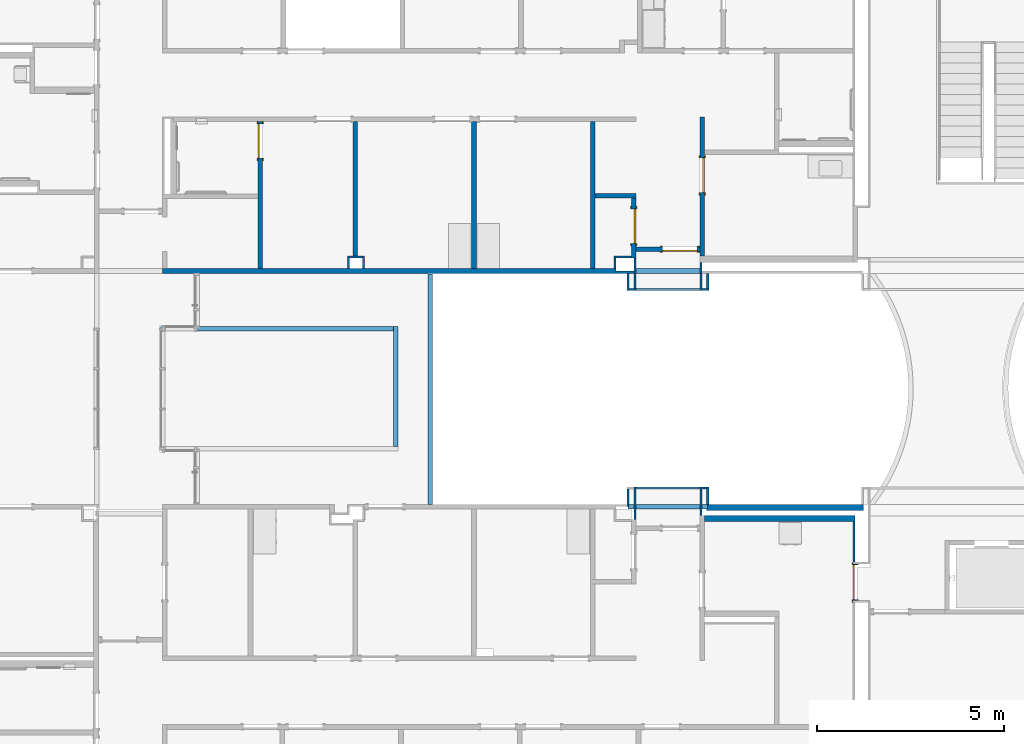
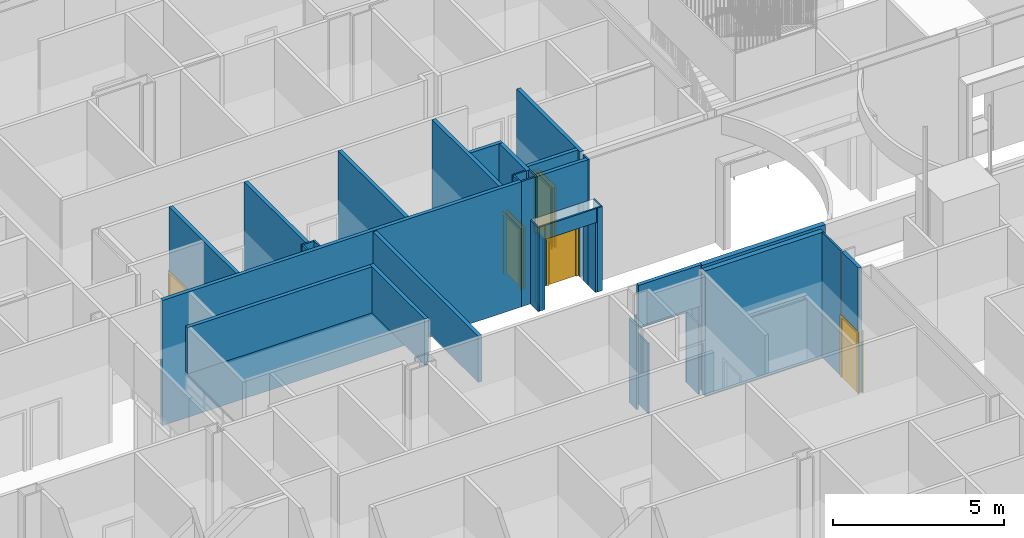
# One storey, part 29 of 82: 39 walls, 5 doors, 5 openings.
"""IFC2X3 building model written with IfcOpenShell, lengths in metres."""

from ifc_helpers import new_model, entity, si_unit, converted_unit, frame, frame_2d, origin, origin_2d_with_axis, place, context, project, spatial, polyline, rectangle, outline, extrude, source, transform, mapped, material, layer, layer_set, layer_usage, type_object, type_shapes, element, fill, save


model = new_model("IFC2X3")

# Units and contexts
model_context = context("Model", 3, precision=1e-09, world=origin())
plan_context = context("Plan", 3, precision=1e-09, world=origin())
ifc_project = project(units=[si_unit("LENGTHUNIT", "METRE"), si_unit("AREAUNIT", "SQUARE_METRE"), si_unit("VOLUMEUNIT", "CUBIC_METRE"), converted_unit("PLANEANGLEUNIT", "DEGREE", entity("IfcRatioMeasure", 0.01745329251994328), si_unit("PLANEANGLEUNIT", "RADIAN"), dimensions=[0, 0, 0, 0, 0, 0, 0]), si_unit("TIMEUNIT", "SECOND")], contexts=[model_context, plan_context])

# Site, building, storey
site_placement = place(None, origin())
site = spatial("IfcSite", under=ifc_project, at=site_placement, Name="Default", CompositionType="ELEMENT")
building_placement = place(site_placement, origin())
building = spatial("IfcBuilding", under=site, at=building_placement, CompositionType="ELEMENT")
storey_placement = place(building_placement, origin())
storey = spatial("IfcBuildingStorey", under=building, at=storey_placement, Name="First Floor", CompositionType="ELEMENT", Elevation=-3.531500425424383e-13)

# Wall
ifc_material_1 = material(Name="Plasterboard")
ifc_layer_1 = layer(ifc_material_1, 0.016)
ifc_material_2 = material(Name="Metal - Stud Layer")
ifc_layer_2 = layer(ifc_material_2, 0.092)
ifc_layer_3 = layer(ifc_material_1, 0.016)
ifc_layer_set_1 = layer_set([ifc_layer_1, ifc_layer_2, ifc_layer_3], Name="Basic Wall:Interior - Partition (92mm Stud)")
ifc_layer_usage_1 = layer_usage(ifc_layer_set_1, "AXIS2", "NEGATIVE", 0.062)
wall_1_placement = place(storey_placement, frame((-26.61400000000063, 34.8415481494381, 0.0), z_axis=(0.0, 0.0, 1.0), x_axis=(-1.0, 0.0, 0.0)))
element("IfcWallStandardCase", 1, at=wall_1_placement, inside=storey, material=ifc_layer_usage_1, Name="Basic Wall:Interior - Partition (92mm Stud)", ObjectType="Basic Wall:Interior - Partition (92mm Stud)", context=model_context, shape_type="SweptSolid", body=[
    extrude(rectangle(XDim=12.106, YDim=0.1239999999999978, at=frame_2d((6.052999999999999, 0.0), x_axis=(-1.0, 0.0))), origin(), (0.0, 0.0, 1.0), 4.468000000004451),
])

# Wall, opening, door
wall_2_placement = place(storey_placement, frame((-26.14200000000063, 36.7859999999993, 0.0), z_axis=(0.0, 0.0, 1.0), x_axis=(0.0, -1.0, 0.0)))
wall_2 = element("IfcWallStandardCase", 2, at=wall_2_placement, inside=storey, material=ifc_layer_usage_1, Name="Basic Wall:Interior - Partition (92mm Stud)", ObjectType="Basic Wall:Interior - Partition (92mm Stud)", context=model_context, shape_type="SweptSolid", body=[
    extrude(rectangle(XDim=1.600000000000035, YDim=0.1239999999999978, at=frame_2d((0.8000000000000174, 0.0), x_axis=(-1.0, 0.0))), origin(), (0.0, 0.0, 1.0), 4.468000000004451),
])
opening_1_placement = place(wall_2_placement, frame((0.2909999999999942, -0.06200000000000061, 0.0)))
opening_1 = element("IfcOpeningElement", 3, at=opening_1_placement, cuts=wall_2, Name="M_Single-Flush:0915 x 2134mm:0915 x 2134mm:1", ObjectType="Opening", context=model_context, shape_type="SweptSolid", body=[
    extrude(rectangle(XDim=0.9149999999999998, YDim=2.134, at=frame_2d((1.067, 0.4575000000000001), x_axis=(0.0, -1.0))), frame((0.0, 0.0, 0.0), z_axis=(0.0, 1.0, 0.0), x_axis=(0.0, 0.0, 1.0)), (0.0, 0.0, 1.0), 0.124),
])
door_style_1 = type_object("IfcDoorStyle", Name="0915 x 2134mm", ConstructionType="NOTDEFINED", OperationType="SINGLE_SWING_LEFT", ParameterTakesPrecedence=False, Sizeable=False)
shared_shape_1 = source(origin(), model_context, "Body", "SweptSolid", [
    extrude(outline(polyline([(-0.5335, -1.123999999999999), (0.5334999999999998, -1.123999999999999), (0.5334999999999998, 1.086), (0.4574999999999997, 1.086), (0.4574999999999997, -1.048000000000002), (-0.4574999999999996, -1.048000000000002), (-0.4574999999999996, 1.086), (-0.5335, 1.086), (-0.5335, -1.123999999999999)])), frame((0.4575000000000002, 0.1489999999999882, 1.086), z_axis=(0.0, -1.0, 0.0), x_axis=(-1.0, 0.0, 0.0)), (0.0, 0.0, 1.0), 0.02499999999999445),
    extrude(outline(polyline([(-1.123999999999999, -0.5334999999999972), (1.085999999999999, -0.5334999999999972), (1.085999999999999, -0.4575000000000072), (-1.048, -0.4575000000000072), (-1.048, 0.4575000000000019), (1.085999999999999, 0.4575000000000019), (1.085999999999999, 0.5335000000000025), (-1.123999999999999, 0.5335000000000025), (-1.123999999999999, -0.5334999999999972)])), frame((0.4574999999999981, 0.0, 1.085999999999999), z_axis=(0.0, -1.0, 0.0), x_axis=(0.0, 0.0, -1.0)), (0.0, 0.0, 1.0), 0.02500000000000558),
    extrude(rectangle(XDim=0.9149999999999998, YDim=0.051, at=origin_2d_with_axis()), frame((0.4575000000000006, 0.09849999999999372, 0.0)), (0.0, 0.0, 1.0), 2.133999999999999),
])
type_shapes(door_style_1, [shared_shape_1])
door_1_placement = place(opening_1_placement, origin())
door_1 = element("IfcDoor", 4, at=door_1_placement, inside=storey, type_object=door_style_1, Name="M_Single-Flush:0915 x 2134mm:0915 x 2134mm", ObjectType="0915 x 2134mm", OverallHeight=2.134, OverallWidth=0.9149999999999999, context=model_context, shape_type="MappedRepresentation", body=[
    mapped(shared_shape_1, transform((0.0, 0.0, 0.0), scale=1.0)),
])
fill(opening_1, door_1)

wall_3_placement = place(storey_placement, frame((-24.30800000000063, 35.23999999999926, 0.0), z_axis=(0.0, 0.0, 1.0), x_axis=(0.0, 1.0, 0.0)))
wall_3 = element("IfcWallStandardCase", 5, at=wall_3_placement, inside=storey, material=ifc_layer_usage_1, Name="Basic Wall:Interior - Partition (92mm Stud)", ObjectType="Basic Wall:Interior - Partition (92mm Stud)", context=model_context, shape_type="SweptSolid", body=[
    extrude(rectangle(XDim=3.710000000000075, YDim=0.1239999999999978, at=frame_2d((1.855000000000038, 0.0), x_axis=(-1.0, 0.0))), origin(), (0.0, 0.0, 1.0), 4.468000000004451),
])
opening_2_placement = place(wall_3_placement, frame((2.610000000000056, 0.06199999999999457, 0.0)))
opening_2 = element("IfcOpeningElement", 6, at=opening_2_placement, cuts=wall_3, Name="M_Single-Flush:0915 x 2134mm:0915 x 2134mm:1", ObjectType="Opening", context=model_context, shape_type="SweptSolid", body=[
    extrude(rectangle(XDim=0.9149999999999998, YDim=2.134, at=frame_2d((1.067, 0.4574999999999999), x_axis=(0.0, -1.0))), frame((0.0, 0.0, 0.0), z_axis=(0.0, -1.0, 0.0), x_axis=(0.0, 0.0, 1.0)), (0.0, 0.0, 1.0), 0.124),
])
door_2_placement = place(opening_2_placement, frame((0.0, 0.0, 0.0), z_axis=(0.0, 0.0, 1.0), x_axis=(-1.0, 0.0, 0.0)))
door_2 = element("IfcDoor", 7, at=door_2_placement, inside=storey, type_object=door_style_1, Name="M_Single-Flush:0915 x 2134mm:0915 x 2134mm", ObjectType="0915 x 2134mm", OverallHeight=2.134, OverallWidth=0.9149999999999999, context=model_context, shape_type="MappedRepresentation", body=[
    mapped(shared_shape_1, transform((0.0, 0.0, 0.0), scale=1.0)),
])
fill(opening_2, door_2)

# Walls
ifc_layer_4 = layer(ifc_material_2, 0.038)
ifc_layer_5 = layer(ifc_material_1, 0.016)
ifc_layer_set_2 = layer_set([ifc_layer_4, ifc_layer_5], Name="Basic Wall:Interior - Furring (38 mm Stud)")
ifc_layer_usage_2 = layer_usage(ifc_layer_set_2, "AXIS2", "NEGATIVE", 0.027)
wall_4_placement = place(storey_placement, frame((-26.10700000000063, 34.77954814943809, 0.0), z_axis=(0.0, 0.0, 1.0), x_axis=(0.0, 1.0, 0.0)))
element("IfcWallStandardCase", 8, at=wall_4_placement, inside=storey, material=ifc_layer_usage_2, Name="Basic Wall:Interior - Furring (38 mm Stud)", ObjectType="Basic Wall:Interior - Furring (38 mm Stud)", context=model_context, shape_type="SweptSolid", body=[
    extrude(rectangle(XDim=0.4064518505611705, YDim=0.05400000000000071, at=frame_2d((0.2032259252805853, 0.0), x_axis=(-1.0, 0.0))), origin(), (0.0, 0.0, 1.0), 4.46800000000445),
])
wall_5_placement = place(storey_placement, frame((-24.34300000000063, 35.07199999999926, 0.0), z_axis=(0.0, 0.0, 1.0), x_axis=(0.0, -1.0, 0.0)))
element("IfcWallStandardCase", 9, at=wall_5_placement, inside=storey, material=ifc_layer_usage_2, Name="Basic Wall:Interior - Furring (38 mm Stud)", ObjectType="Basic Wall:Interior - Furring (38 mm Stud)", context=model_context, shape_type="SweptSolid", body=[
    extrude(rectangle(XDim=0.2919999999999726, YDim=0.05399999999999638, at=frame_2d((0.1459999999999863, 0.0), x_axis=(-1.0, 0.0))), origin(), (0.0, 0.0, 1.0), 4.46800000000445),
])
ifc_layer_6 = layer(ifc_material_2, 0.152)
ifc_layer_7 = layer(ifc_material_1, 0.016)
ifc_layer_set_3 = layer_set([ifc_layer_6, ifc_layer_7], Name="Basic Wall:Interior - Furring (152 mm Stud)")
ifc_layer_usage_3 = layer_usage(ifc_layer_set_3, "AXIS2", "POSITIVE", -0.08399999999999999)
wall_6_placement = place(storey_placement, frame((-24.18900000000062, 28.52599999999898, 0.0)))
element("IfcWallStandardCase", 10, at=wall_6_placement, inside=storey, material=ifc_layer_usage_3, Name="Basic Wall:Interior - Furring (152 mm Stud)", ObjectType="Basic Wall:Interior - Furring (152 mm Stud)", context=model_context, shape_type="SweptSolid", body=[
    extrude(rectangle(XDim=4.183000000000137, YDim=0.1680000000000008, at=frame_2d((2.091500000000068, 0.0), x_axis=(-1.0, 0.0))), origin(), (0.0, 0.0, 1.0), 4.46800000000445),
])
wall_7_placement = place(storey_placement, frame((-26.61400000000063, 34.8065481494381, 0.0)))
element("IfcWallStandardCase", 11, at=wall_7_placement, inside=storey, material=ifc_layer_usage_2, Name="Basic Wall:Interior - Furring (38 mm Stud)", ObjectType="Basic Wall:Interior - Furring (38 mm Stud)", context=model_context, shape_type="SweptSolid", body=[
    extrude(rectangle(XDim=0.4800000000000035, YDim=0.05399999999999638, at=frame_2d((0.2400000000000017, 0.0), x_axis=(-1.0, 0.0))), origin(), (0.0, 0.0, 1.0), 4.46800000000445),
])
wall_8_placement = place(storey_placement, frame((-24.37000000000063, 34.8415481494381, 3.0), z_axis=(0.0, 0.0, 1.0), x_axis=(-1.0, 0.0, 0.0)))
element("IfcWallStandardCase", 12, at=wall_8_placement, inside=storey, material=ifc_layer_usage_1, Name="Basic Wall:Interior - Partition (92mm Stud)", ObjectType="Basic Wall:Interior - Partition (92mm Stud)", context=model_context, shape_type="SweptSolid", body=[
    extrude(rectangle(XDim=1.763999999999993, YDim=0.1239999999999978, at=frame_2d((0.8819999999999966, 0.0), x_axis=(-1.0, 0.0))), origin(), (0.0, 0.0, 1.0), 1.46800000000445),
])
wall_9_placement = place(storey_placement, frame((-26.10700000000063, 34.37400192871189, 0.0), z_axis=(0.0, 0.0, 1.0), x_axis=(0.0, 1.0, 0.0)))
element("IfcWallStandardCase", 13, at=wall_9_placement, inside=storey, material=ifc_layer_usage_2, Name="Basic Wall:Interior - Furring (38 mm Stud)", ObjectType="Basic Wall:Interior - Furring (38 mm Stud)", context=model_context, shape_type="SweptSolid", body=[
    extrude(rectangle(XDim=0.4055462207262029, YDim=0.05399999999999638, at=frame_2d((0.2027731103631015, 0.0), x_axis=(-1.0, 0.0))), origin(), (0.0, 0.0, 1.0), 2.5),
])

# Wall, opening, door
wall_10_placement = place(storey_placement, frame((-36.11200000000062, 38.8259999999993, 0.0), z_axis=(0.0, 0.0, 1.0), x_axis=(0.0, -1.0, 0.0)))
wall_10 = element("IfcWallStandardCase", 14, at=wall_10_placement, inside=storey, material=ifc_layer_usage_1, Name="Basic Wall:Interior - Partition (92mm Stud)", ObjectType="Basic Wall:Interior - Partition (92mm Stud)", context=model_context, shape_type="SweptSolid", body=[
    extrude(rectangle(XDim=3.922451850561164, YDim=0.1239999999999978, at=frame_2d((1.961225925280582, 0.0), x_axis=(-1.0, 0.0))), origin(), (0.0, 0.0, 1.0), 4.46800000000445),
])
opening_3_placement = place(wall_10_placement, frame((0.974999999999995, 0.06199999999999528, 0.0)))
opening_3 = element("IfcOpeningElement", 15, at=opening_3_placement, cuts=wall_10, Name="M_Single-Flush:0915 x 2134mm:0915 x 2134mm:1", ObjectType="Opening", context=model_context, shape_type="SweptSolid", body=[
    extrude(rectangle(XDim=0.9149999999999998, YDim=2.134, at=frame_2d((1.067, 0.4575), x_axis=(0.0, 1.0))), frame((0.0, 0.0, 0.0), z_axis=(0.0, -1.0, 0.0), x_axis=(0.0, 0.0, 1.0)), (0.0, 0.0, 1.0), 0.124),
])
door_style_2 = type_object("IfcDoorStyle", Name="0915 x 2134mm", ConstructionType="NOTDEFINED", OperationType="SINGLE_SWING_RIGHT", ParameterTakesPrecedence=False, Sizeable=False)
shared_shape_2 = source(origin(), model_context, "Body", "SweptSolid", [
    extrude(outline(polyline([(-0.5335, -1.123999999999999), (0.5334999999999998, -1.123999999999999), (0.5334999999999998, 1.086), (0.4574999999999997, 1.086), (0.4574999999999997, -1.048000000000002), (-0.4574999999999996, -1.048000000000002), (-0.4574999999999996, 1.086), (-0.5335, 1.086), (-0.5335, -1.123999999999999)])), frame((0.4575000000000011, 0.1239999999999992, 1.086), z_axis=(0.0, 1.0, 0.0), x_axis=(1.0, 0.0, 0.0)), (0.0, 0.0, 1.0), 0.02499999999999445),
    extrude(outline(polyline([(-1.123999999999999, -0.5334999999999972), (1.085999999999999, -0.5334999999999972), (1.085999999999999, -0.4575000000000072), (-1.048, -0.4575000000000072), (-1.048, 0.4575000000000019), (1.085999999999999, 0.4575000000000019), (1.085999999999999, 0.5335000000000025), (-1.123999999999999, 0.5335000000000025), (-1.123999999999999, -0.5334999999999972)])), frame((0.4575000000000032, -0.02500000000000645, 1.085999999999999), z_axis=(0.0, 1.0, 0.0), x_axis=(0.0, 0.0, -1.0)), (0.0, 0.0, 1.0), 0.02500000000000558),
    extrude(rectangle(XDim=0.051, YDim=0.9149999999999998, at=origin_2d_with_axis()), frame((0.4575000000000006, 0.09849999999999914, 0.0), z_axis=(0.0, 0.0, 1.0), x_axis=(0.0, 1.0, 0.0)), (0.0, 0.0, 1.0), 2.133999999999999),
])
type_shapes(door_style_2, [shared_shape_2])
door_3_placement = place(opening_3_placement, frame((0.0, 0.0, 0.0), z_axis=(0.0, 0.0, 1.0), x_axis=(-1.0, 0.0, 0.0)))
door_3 = element("IfcDoor", 16, at=door_3_placement, inside=storey, type_object=door_style_2, Name="M_Single-Flush:0915 x 2134mm:0915 x 2134mm", ObjectType="0915 x 2134mm", OverallHeight=2.134, OverallWidth=0.9149999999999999, context=model_context, shape_type="MappedRepresentation", body=[
    mapped(shared_shape_2, transform((0.0, 0.0, 0.0), scale=1.0)),
])
fill(opening_3, door_3)

# Walls
wall_11_placement = place(storey_placement, frame((-26.10700000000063, 28.20399999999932, 0.0), z_axis=(0.0, 0.0, 1.0), x_axis=(0.0, 1.0, 0.0)))
element("IfcWallStandardCase", 17, at=wall_11_placement, inside=storey, material=ifc_layer_usage_2, Name="Basic Wall:Interior - Furring (38 mm Stud)", ObjectType="Basic Wall:Interior - Furring (38 mm Stud)", context=model_context, shape_type="SweptSolid", body=[
    extrude(rectangle(XDim=0.865999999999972, YDim=0.05399999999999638, at=frame_2d((0.432999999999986, 0.0), x_axis=(-1.0, 0.0))), origin(), (0.0, 0.0, 1.0), 2.5),
])
wall_12_placement = place(storey_placement, frame((-27.23200000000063, 38.82599999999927, 0.0), z_axis=(0.0, 0.0, 1.0), x_axis=(0.0, -1.0, 0.0)))
element("IfcWallStandardCase", 18, at=wall_12_placement, inside=storey, material=ifc_layer_usage_1, Name="Basic Wall:Interior - Partition (92mm Stud)", ObjectType="Basic Wall:Interior - Partition (92mm Stud)", context=model_context, shape_type="SweptSolid", body=[
    extrude(rectangle(XDim=3.922451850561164, YDim=0.1239999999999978, at=frame_2d((1.961225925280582, 0.0), x_axis=(-1.0, 0.0))), origin(), (0.0, 0.0, 1.0), 4.468000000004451),
])
wall_13_placement = place(storey_placement, frame((-24.34300000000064, 29.01599999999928, 0.0), z_axis=(0.0, 0.0, 1.0), x_axis=(0.0, -1.0, 0.0)))
element("IfcWallStandardCase", 19, at=wall_13_placement, inside=storey, material=ifc_layer_usage_2, Name="Basic Wall:Interior - Furring (38 mm Stud)", ObjectType="Basic Wall:Interior - Furring (38 mm Stud)", context=model_context, shape_type="SweptSolid", body=[
    extrude(rectangle(XDim=0.6979999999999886, YDim=0.05399999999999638, at=frame_2d((0.3489999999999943, 0.0), x_axis=(-1.0, 0.0))), origin(), (0.0, 0.0, 1.0), 2.5),
])
wall_14_placement = place(storey_placement, frame((-24.34300000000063, 34.77999999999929, 0.0), z_axis=(0.0, 0.0, 1.0), x_axis=(0.0, -1.0, 0.0)))
element("IfcWallStandardCase", 20, at=wall_14_placement, inside=storey, material=ifc_layer_usage_2, Name="Basic Wall:Interior - Furring (38 mm Stud)", ObjectType="Basic Wall:Interior - Furring (38 mm Stud)", context=model_context, shape_type="SweptSolid", body=[
    extrude(rectangle(XDim=0.4599980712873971, YDim=0.05399999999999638, at=frame_2d((0.2299990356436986, 0.0), x_axis=(-1.0, 0.0))), origin(), (0.0, 0.0, 1.0), 2.5),
])
ifc_layer_usage_4 = layer_usage(ifc_layer_set_2, "AXIS2", "POSITIVE", -0.027)
wall_15_placement = place(storey_placement, frame((-26.10700000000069, 29.04299807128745, 2.5)))
element("IfcWallStandardCase", 21, at=wall_15_placement, inside=storey, material=ifc_layer_usage_4, Name="Basic Wall:Interior - Furring (38 mm Stud)", ObjectType="Basic Wall:Interior - Furring (38 mm Stud)", context=model_context, shape_type="SweptSolid", body=[
    extrude(rectangle(XDim=1.763999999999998, YDim=0.05399999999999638, at=frame_2d((0.8819999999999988, 0.0), x_axis=(-1.0, 0.0))), origin(), (0.0, 0.0, 1.0), 0.5),
])
wall_16_placement = place(storey_placement, frame((-27.17000000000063, 36.84799999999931, 0.0)))
element("IfcWallStandardCase", 22, at=wall_16_placement, inside=storey, material=ifc_layer_usage_1, Name="Basic Wall:Interior - Partition (92mm Stud)", ObjectType="Basic Wall:Interior - Partition (92mm Stud)", context=model_context, shape_type="SweptSolid", body=[
    extrude(rectangle(XDim=1.090000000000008, YDim=0.1239999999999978, at=frame_2d((0.5450000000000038, 0.0), x_axis=(-1.0, 0.0))), origin(), (0.0, 0.0, 1.0), 4.46800000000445),
])
wall_17_placement = place(storey_placement, frame((-26.20400000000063, 35.21299999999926, 0.0), z_axis=(0.0, 0.0, 1.0), x_axis=(-1.0, 0.0, 0.0)))
element("IfcWallStandardCase", 23, at=wall_17_placement, inside=storey, material=ifc_layer_usage_2, Name="Basic Wall:Interior - Furring (38 mm Stud)", ObjectType="Basic Wall:Interior - Furring (38 mm Stud)", context=model_context, shape_type="SweptSolid", body=[
    extrude(rectangle(XDim=0.4639999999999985, YDim=0.05399999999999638, at=frame_2d((0.2319999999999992, 0.0), x_axis=(-1.0, 0.0))), origin(), (0.0, 0.0, 1.0), 4.46800000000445),
])
wall_18_placement = place(storey_placement, frame((-20.23600000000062, 28.23399999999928, 0.0), z_axis=(0.0, 0.0, 1.0), x_axis=(-1.0, 0.0, 0.0)))
element("IfcWallStandardCase", 24, at=wall_18_placement, inside=storey, material=ifc_layer_usage_3, Name="Basic Wall:Interior - Furring (152 mm Stud)", ObjectType="Basic Wall:Interior - Furring (152 mm Stud)", context=model_context, shape_type="SweptSolid", body=[
    extrude(rectangle(XDim=4.010000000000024, YDim=0.1679999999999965, at=frame_2d((2.005000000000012, 0.0), x_axis=(-1.0, 0.0))), origin(), (0.0, 0.0, 1.0), 4.46800000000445),
])
wall_19_placement = place(storey_placement, frame((-33.37400000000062, 35.21299999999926, 0.0), z_axis=(0.0, 0.0, 1.0), x_axis=(-1.0, 0.0, 0.0)))
element("IfcWallStandardCase", 25, at=wall_19_placement, inside=storey, material=ifc_layer_usage_2, Name="Basic Wall:Interior - Furring (38 mm Stud)", ObjectType="Basic Wall:Interior - Furring (38 mm Stud)", context=model_context, shape_type="SweptSolid", body=[
    extrude(rectangle(XDim=0.4060000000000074, YDim=0.05399999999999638, at=frame_2d((0.2030000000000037, 0.0), x_axis=(-1.0, 0.0))), origin(), (0.0, 0.0, 1.0), 4.46800000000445),
])
wall_20_placement = place(storey_placement, frame((-26.26100000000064, 34.34700192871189, 0.0)))
element("IfcWallStandardCase", 26, at=wall_20_placement, inside=storey, material=ifc_layer_usage_2, Name="Basic Wall:Interior - Furring (38 mm Stud)", ObjectType="Basic Wall:Interior - Furring (38 mm Stud)", context=model_context, shape_type="SweptSolid", body=[
    extrude(rectangle(XDim=0.1810000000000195, YDim=0.05399999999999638, at=frame_2d((0.09050000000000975, 0.0), x_axis=(-1.0, 0.0))), origin(), (0.0, 0.0, 1.0), 3.0),
])

# Wall, opening, door
ifc_layer_usage_5 = layer_usage(ifc_layer_set_1, "AXIS2", "POSITIVE", -0.062)
wall_21_placement = place(storey_placement, frame((-20.22800000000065, 27.01499999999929, 0.0), z_axis=(0.0, 0.0, 1.0), x_axis=(0.0, -1.0, 0.0)))
wall_21 = element("IfcWallStandardCase", 27, at=wall_21_placement, inside=storey, material=ifc_layer_usage_5, Name="Basic Wall:Interior - Partition (92mm Stud)", ObjectType="Basic Wall:Interior - Partition (92mm Stud)", context=model_context, shape_type="SweptSolid", body=[
    extrude(rectangle(XDim=0.9690000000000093, YDim=0.1239999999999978, at=frame_2d((0.4845000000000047, 0.0), x_axis=(-1.0, 0.0))), origin(), (0.0, 0.0, 1.0), 4.46800000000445),
])
opening_4_placement = place(wall_21_placement, frame((0.942000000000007, 0.06200000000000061, 0.0)))
opening_4 = element("IfcOpeningElement", 28, at=opening_4_placement, cuts=wall_21, Name="M_Single-Flush:0915 x 2134mm:0915 x 2134mm:1", ObjectType="Opening", context=model_context, shape_type="SweptSolid", body=[
    extrude(rectangle(XDim=0.9149999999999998, YDim=2.134, at=frame_2d((1.067, 0.4575000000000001), x_axis=(0.0, -1.0))), frame((0.0, 0.0, 0.0), z_axis=(0.0, -1.0, 0.0), x_axis=(0.0, 0.0, 1.0)), (0.0, 0.0, 1.0), 0.124),
])
door_4_placement = place(opening_4_placement, frame((0.0, 0.0, 0.0), z_axis=(0.0, 0.0, 1.0), x_axis=(-1.0, 0.0, 0.0)))
door_4 = element("IfcDoor", 29, at=door_4_placement, inside=storey, type_object=door_style_1, Name="M_Single-Flush:0915 x 2134mm:0915 x 2134mm", ObjectType="0915 x 2134mm", OverallHeight=2.134, OverallWidth=0.9149999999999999, context=model_context, shape_type="MappedRepresentation", body=[
    mapped(shared_shape_1, transform((0.0, 0.0, 0.0), scale=1.0)),
])
fill(opening_4, door_4)

# Walls
wall_22_placement = place(storey_placement, frame((-24.16200000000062, 28.54799999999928, 3.0), z_axis=(0.0, 0.0, 1.0), x_axis=(-1.0, 0.0, 0.0)))
element("IfcWallStandardCase", 30, at=wall_22_placement, inside=storey, material=ifc_layer_usage_1, Name="Basic Wall:Interior - Partition (92mm Stud)", ObjectType="Basic Wall:Interior - Partition (92mm Stud)", context=model_context, shape_type="SweptSolid", body=[
    extrude(rectangle(XDim=2.126000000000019, YDim=0.1239999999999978, at=frame_2d((1.06300000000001, 0.0), x_axis=(-1.0, 0.0))), origin(), (0.0, 0.0, 1.0), 1.46800000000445),
])
wall_23_placement = place(storey_placement, frame((-26.64100000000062, 35.18599999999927, 0.0), z_axis=(0.0, 0.0, 1.0), x_axis=(0.0, -1.0, 0.0)))
element("IfcWallStandardCase", 31, at=wall_23_placement, inside=storey, material=ifc_layer_usage_2, Name="Basic Wall:Interior - Furring (38 mm Stud)", ObjectType="Basic Wall:Interior - Furring (38 mm Stud)", context=model_context, shape_type="SweptSolid", body=[
    extrude(rectangle(XDim=0.282451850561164, YDim=0.05399999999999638, at=frame_2d((0.141225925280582, 0.0), x_axis=(-1.0, 0.0))), origin(), (0.0, 0.0, 1.0), 4.46800000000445),
])
wall_24_placement = place(storey_placement, frame((-26.10700000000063, 34.34700192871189, 2.5)))
element("IfcWallStandardCase", 32, at=wall_24_placement, inside=storey, material=ifc_layer_usage_2, Name="Basic Wall:Interior - Furring (38 mm Stud)", ObjectType="Basic Wall:Interior - Furring (38 mm Stud)", context=model_context, shape_type="SweptSolid", body=[
    extrude(rectangle(XDim=1.763999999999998, YDim=0.05399999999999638, at=frame_2d((0.8819999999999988, 0.0), x_axis=(-1.0, 0.0))), origin(), (0.0, 0.0, 1.0), 0.5),
])
wall_25_placement = place(storey_placement, frame((-24.16200000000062, 28.60999999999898, 0.0), z_axis=(0.0, 0.0, 1.0), x_axis=(0.0, 1.0, 0.0)))
element("IfcWallStandardCase", 33, at=wall_25_placement, inside=storey, material=ifc_layer_usage_2, Name="Basic Wall:Interior - Furring (38 mm Stud)", ObjectType="Basic Wall:Interior - Furring (38 mm Stud)", context=model_context, shape_type="SweptSolid", body=[
    extrude(rectangle(XDim=0.4600000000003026, YDim=0.05399999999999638, at=frame_2d((0.2300000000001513, 0.0), x_axis=(-1.0, 0.0))), origin(), (0.0, 0.0, 1.0), 3.0),
])

# Wall, opening, door
wall_26_placement = place(storey_placement, frame((-26.08000000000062, 35.41799999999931, 0.0)))
wall_26 = element("IfcWallStandardCase", 34, at=wall_26_placement, inside=storey, material=ifc_layer_usage_1, Name="Basic Wall:Interior - Partition (92mm Stud)", ObjectType="Basic Wall:Interior - Partition (92mm Stud)", context=model_context, shape_type="SweptSolid", body=[
    extrude(rectangle(XDim=1.710000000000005, YDim=0.1239999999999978, at=frame_2d((0.8550000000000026, 0.0), x_axis=(-1.0, 0.0))), origin(), (0.0, 0.0, 1.0), 4.46800000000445),
])
opening_5_placement = place(wall_26_placement, frame((1.630000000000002, 0.06199999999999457, 0.0)))
opening_5 = element("IfcOpeningElement", 35, at=opening_5_placement, cuts=wall_26, Name="M_Single-Flush:0915 x 2134mm:0915 x 2134mm:1", ObjectType="Opening", context=model_context, shape_type="SweptSolid", body=[
    extrude(rectangle(XDim=0.9149999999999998, YDim=2.134, at=frame_2d((1.067, 0.4575000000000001), x_axis=(0.0, -1.0))), frame((0.0, 0.0, 0.0), z_axis=(0.0, -1.0, 0.0), x_axis=(0.0, 0.0, 1.0)), (0.0, 0.0, 1.0), 0.124),
])
door_5_placement = place(opening_5_placement, frame((0.0, 0.0, 0.0), z_axis=(0.0, 0.0, 1.0), x_axis=(-1.0, 0.0, 0.0)))
door_5 = element("IfcDoor", 36, at=door_5_placement, inside=storey, type_object=door_style_1, Name="M_Single-Flush:0915 x 2134mm:0915 x 2134mm", ObjectType="0915 x 2134mm", OverallHeight=2.134, OverallWidth=0.9149999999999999, context=model_context, shape_type="MappedRepresentation", body=[
    mapped(shared_shape_1, transform((0.0, 0.0, 0.0), scale=1.0)),
])
fill(opening_5, door_5)

# Walls
wall_27_placement = place(storey_placement, frame((-24.18900000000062, 29.04299999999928, 0.0), z_axis=(0.0, 0.0, 1.0), x_axis=(-1.0, 0.0, 0.0)))
element("IfcWallStandardCase", 37, at=wall_27_placement, inside=storey, material=ifc_layer_usage_2, Name="Basic Wall:Interior - Furring (38 mm Stud)", ObjectType="Basic Wall:Interior - Furring (38 mm Stud)", context=model_context, shape_type="SweptSolid", body=[
    extrude(rectangle(XDim=0.1810000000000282, YDim=0.05399999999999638, at=frame_2d((0.09050000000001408, 0.0), x_axis=(-1.0, 0.0))), origin(), (0.0, 0.0, 1.0), 3.0),
])
wall_28_placement = place(storey_placement, frame((-33.57200000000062, 38.82599999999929, 0.0), z_axis=(0.0, 0.0, 1.0), x_axis=(0.0, -1.0, 0.0)))
element("IfcWallStandardCase", 38, at=wall_28_placement, inside=storey, material=ifc_layer_usage_1, Name="Basic Wall:Interior - Partition (92mm Stud)", ObjectType="Basic Wall:Interior - Partition (92mm Stud)", context=model_context, shape_type="SweptSolid", body=[
    extrude(rectangle(XDim=3.586000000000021, YDim=0.1239999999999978, at=frame_2d((1.79300000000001, 0.0), x_axis=(-1.0, 0.0))), origin(), (0.0, 0.0, 1.0), 4.46800000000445),
])
wall_29_placement = place(storey_placement, frame((-24.34300000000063, 34.34700192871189, 0.0)))
element("IfcWallStandardCase", 39, at=wall_29_placement, inside=storey, material=ifc_layer_usage_2, Name="Basic Wall:Interior - Furring (38 mm Stud)", ObjectType="Basic Wall:Interior - Furring (38 mm Stud)", context=model_context, shape_type="SweptSolid", body=[
    extrude(rectangle(XDim=0.1810000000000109, YDim=0.05400000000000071, at=frame_2d((0.1175000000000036, 0.0), x_axis=(-1.0, 0.0))), origin(), (0.0, 0.0, 1.0), 3.0),
])
wall_30_placement = place(storey_placement, frame((-26.28800000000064, 29.01599999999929, 0.0), z_axis=(0.0, 0.0, 1.0), x_axis=(0.0, -1.0, 0.0)))
element("IfcWallStandardCase", 40, at=wall_30_placement, inside=storey, material=ifc_layer_usage_2, Name="Basic Wall:Interior - Furring (38 mm Stud)", ObjectType="Basic Wall:Interior - Furring (38 mm Stud)", context=model_context, shape_type="SweptSolid", body=[
    extrude(rectangle(XDim=0.4600000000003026, YDim=0.05399999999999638, at=frame_2d((0.2300000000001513, 0.0), x_axis=(-1.0, 0.0))), origin(), (0.0, 0.0, 1.0), 3.0),
])
wall_31_placement = place(storey_placement, frame((-30.40200000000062, 38.82599999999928, 0.0), z_axis=(0.0, 0.0, 1.0), x_axis=(0.0, -1.0, 0.0)))
element("IfcWallStandardCase", 41, at=wall_31_placement, inside=storey, material=ifc_layer_usage_1, Name="Basic Wall:Interior - Partition (92mm Stud)", ObjectType="Basic Wall:Interior - Partition (92mm Stud)", context=model_context, shape_type="SweptSolid", body=[
    extrude(rectangle(XDim=3.922451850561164, YDim=0.1239999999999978, at=frame_2d((1.961225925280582, 0.0), x_axis=(-1.0, 0.0))), origin(), (0.0, 0.0, 1.0), 4.46800000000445),
])
wall_32_placement = place(storey_placement, frame((-20.26300000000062, 28.14999999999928, 0.0), z_axis=(0.0, 0.0, 1.0), x_axis=(0.0, -1.0, 0.0)))
element("IfcWallStandardCase", 42, at=wall_32_placement, inside=storey, material=ifc_layer_usage_2, Name="Basic Wall:Interior - Furring (38 mm Stud)", ObjectType="Basic Wall:Interior - Furring (38 mm Stud)", context=model_context, shape_type="SweptSolid", body=[
    extrude(rectangle(XDim=1.080999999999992, YDim=0.05399999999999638, at=frame_2d((0.5404999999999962, 0.0), x_axis=(-1.0, 0.0))), origin(), (0.0, 0.0, 1.0), 4.46800000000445),
])
wall_33_placement = place(storey_placement, frame((-24.16200000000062, 34.37400192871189, 0.0), z_axis=(0.0, 0.0, 1.0), x_axis=(0.0, 1.0, 0.0)))
element("IfcWallStandardCase", 43, at=wall_33_placement, inside=storey, material=ifc_layer_usage_2, Name="Basic Wall:Interior - Furring (38 mm Stud)", ObjectType="Basic Wall:Interior - Furring (38 mm Stud)", context=model_context, shape_type="SweptSolid", body=[
    extrude(rectangle(XDim=0.4059980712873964, YDim=0.05399999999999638, at=frame_2d((0.2029990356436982, 0.0), x_axis=(-1.0, 0.0))), origin(), (0.0, 0.0, 1.0), 3.0),
])
wall_34_placement = place(storey_placement, frame((-26.28800000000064, 34.77954814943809, 0.0), z_axis=(0.0, 0.0, 1.0), x_axis=(0.0, -1.0, 0.0)))
element("IfcWallStandardCase", 44, at=wall_34_placement, inside=storey, material=ifc_layer_usage_2, Name="Basic Wall:Interior - Furring (38 mm Stud)", ObjectType="Basic Wall:Interior - Furring (38 mm Stud)", context=model_context, shape_type="SweptSolid", body=[
    extrude(rectangle(XDim=0.4595462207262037, YDim=0.05399999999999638, at=frame_2d((0.2297731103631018, 0.0), x_axis=(-1.0, 0.0))), origin(), (0.0, 0.0, 1.0), 3.0),
])
wall_35_placement = place(storey_placement, frame((-32.54900000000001, 33.2969999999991, 2.8), z_axis=(0.0, 0.0, 1.0), x_axis=(-1.0, 0.0, 0.0)))
element("IfcWallStandardCase", 45, at=wall_35_placement, inside=storey, material=ifc_layer_usage_1, Name="Basic Wall:Interior - Partition (92mm Stud)", ObjectType="Basic Wall:Interior - Partition (92mm Stud)", context=model_context, shape_type="SweptSolid", body=[
    extrude(rectangle(XDim=6.220000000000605, YDim=0.1239999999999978, at=frame_2d((3.110000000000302, 0.0), x_axis=(-1.0, 0.0))), origin(), (0.0, 0.0, 1.0), 1.650000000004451),
])
wall_36_placement = place(storey_placement, frame((-33.75300000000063, 35.18599999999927, 0.0), z_axis=(0.0, 0.0, 1.0), x_axis=(0.0, -1.0, 0.0)))
element("IfcWallStandardCase", 46, at=wall_36_placement, inside=storey, material=ifc_layer_usage_2, Name="Basic Wall:Interior - Furring (38 mm Stud)", ObjectType="Basic Wall:Interior - Furring (38 mm Stud)", context=model_context, shape_type="SweptSolid", body=[
    extrude(rectangle(XDim=0.2824518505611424, YDim=0.05399999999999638, at=frame_2d((0.1412259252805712, 0.0), x_axis=(-1.0, 0.0))), origin(), (0.0, 0.0, 1.0), 4.46800000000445),
])
wall_37_placement = place(storey_placement, frame((-33.34700000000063, 34.90354814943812, 0.0), z_axis=(0.0, 0.0, 1.0), x_axis=(0.0, 1.0, 0.0)))
element("IfcWallStandardCase", 47, at=wall_37_placement, inside=storey, material=ifc_layer_usage_2, Name="Basic Wall:Interior - Furring (38 mm Stud)", ObjectType="Basic Wall:Interior - Furring (38 mm Stud)", context=model_context, shape_type="SweptSolid", body=[
    extrude(rectangle(XDim=0.3364518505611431, YDim=0.05399999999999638, at=frame_2d((0.1682259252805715, 0.0), x_axis=(-1.0, 0.0))), origin(), (0.0, 0.0, 1.0), 4.46800000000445),
])
wall_38_placement = place(storey_placement, frame((-32.48700000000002, 30.15499999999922, 2.8), z_axis=(0.0, 0.0, 1.0), x_axis=(0.0, 1.0, 0.0)))
element("IfcWallStandardCase", 48, at=wall_38_placement, inside=storey, material=ifc_layer_usage_1, Name="Basic Wall:Interior - Partition (92mm Stud)", ObjectType="Basic Wall:Interior - Partition (92mm Stud)", context=model_context, shape_type="SweptSolid", body=[
    extrude(rectangle(XDim=3.203999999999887, YDim=0.1239999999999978, at=frame_2d((1.601999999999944, 0.0), x_axis=(-1.0, 0.0))), origin(), (0.0, 0.0, 1.0), 1.650000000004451),
])
wall_39_placement = place(storey_placement, frame((-31.57200000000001, 34.75479450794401, 2.8), z_axis=(0.0, 0.0, 1.0), x_axis=(0.0, -1.0, 0.0)))
element("IfcWallStandardCase", 49, at=wall_39_placement, inside=storey, material=ifc_layer_usage_1, Name="Basic Wall:Interior - Partition (92mm Stud)", ObjectType="Basic Wall:Interior - Partition (92mm Stud)", context=model_context, shape_type="SweptSolid", body=[
    extrude(rectangle(XDim=6.144794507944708, YDim=0.1239999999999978, at=frame_2d((3.072397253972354, 0.0), x_axis=(-1.0, 0.0))), origin(), (0.0, 0.0, 1.0), 1.650000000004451),
])

save(model, "model.ifc")
